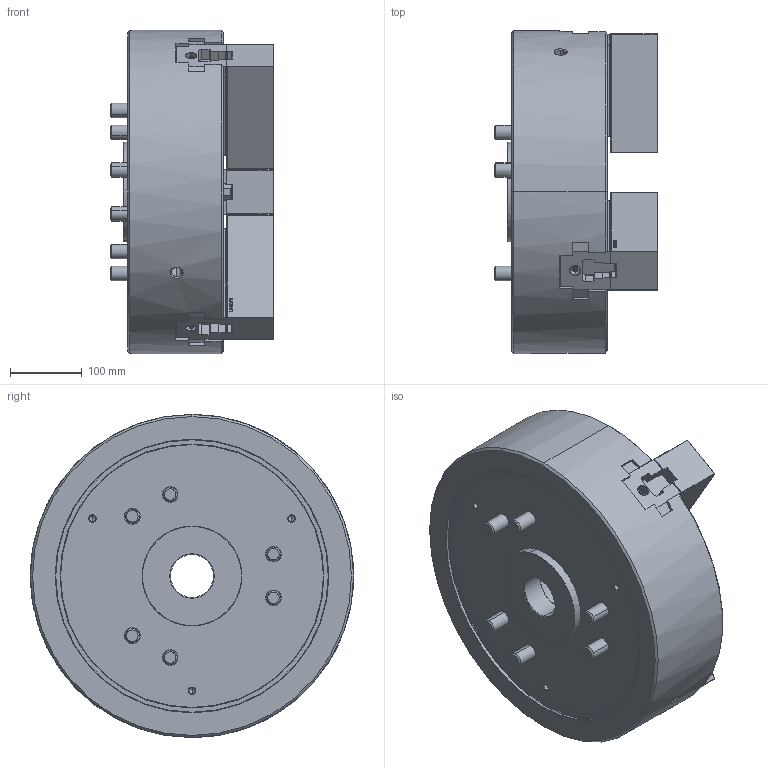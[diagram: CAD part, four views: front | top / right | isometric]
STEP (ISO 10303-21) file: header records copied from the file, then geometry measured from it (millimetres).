
FILE_DESCRIPTION (( 'STEP AP214' ), '1' );
FILE_NAME ('B-18_OC.STEP', '2025-04-23T09:51:48', ( '' ), ( '' ), 'SwSTEP 2.0', 'SolidWorks 2022', '' );
FILE_SCHEMA (( 'AUTOMOTIVE_DESIGN' ));
Length unit declared in the file: millimetre
Products named in the file (9): Copy of 0030120060^B-18_61P231303; B-18_OC; Part39^B-18_61P231303; Copy of 61P401172^B-18_61P231303; Copy of 0030120130^B-18_61P231303; Copy of 61P304554^B-18_61P231303; Copy of 6013P0029^B-18_61P231303; Copy of 61P303047^B-18_61P231303; Copy of 0030106016^B-18_61P231303
Assembly tree (27 placements, depth 2):
  B-18_OC
    Copy of 61P303047^B-18_61P231303  x3
    Copy of 61P401172^B-18_61P231303  x3
    Copy of 6013P0029^B-18_61P231303
    Copy of 61P304554^B-18_61P231303
    Copy of 0030106016^B-18_61P231303  x6
    Copy of 0030120060^B-18_61P231303  x6
    Copy of 0030120130^B-18_61P231303  x6
    Part39^B-18_61P231303
Bounding box: 227 x 450 x 450 mm (x, y, z)
Volume: 20918898 mm3; surface area: 1238774.4 mm2
Topology: 27 solids, 36 shells, 9684 faces, 27751 edges, 18338 vertices
Faces by surface type: plane 5790, cylinder 2376, bspline 975, cone 481, torus 54, sphere 8
Entity records: 246899 total; most frequent: CARTESIAN_POINT 81083, ORIENTED_EDGE 38714, DIRECTION 28161, EDGE_CURVE 19357, VECTOR 13819, LINE 13819, VERTEX_POINT 12817, AXIS2_PLACEMENT_3D 7171
